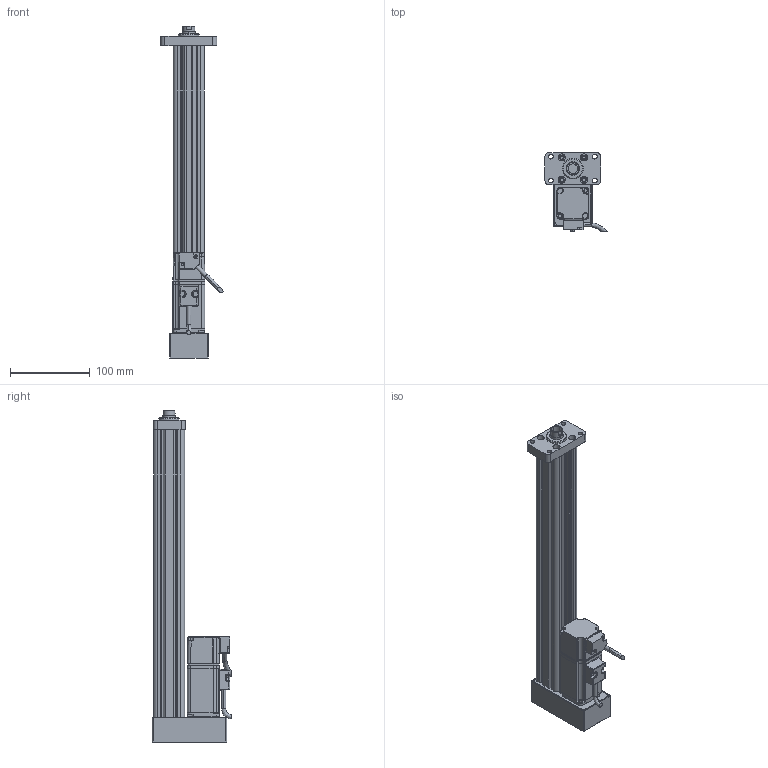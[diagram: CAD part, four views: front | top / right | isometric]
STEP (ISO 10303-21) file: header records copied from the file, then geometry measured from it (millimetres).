
FILE_DESCRIPTION (( 'STEP AP214' ), '1' );
FILE_NAME ('039-S300-D02-B-M3-C2-2.STEP', '2021-02-25T08:43:19', ( '' ), ( '' ), 'SwSTEP 2.0', 'SolidWorks 2018', '' );
FILE_SCHEMA (( 'AUTOMOTIVE_DESIGN' ));
Length unit declared in the file: millimetre
Products named in the file (7): 039-S300-D02-B-M3-C2-2; CMC039-GT; CMC039-FL; ECMA-CX0401ES-40框號系列機種-100W低慣量系列; CMC039-LJB; CMC039-DT; CMC039-XT
Assembly tree (6 placements, depth 2):
  039-S300-D02-B-M3-C2-2
    CMC039-GT
    CMC039-LJB
    CMC039-XT
    CMC039-FL
    CMC039-DT
    ECMA-CX0401ES-40框號系列機種-100W低慣量系列
Bounding box: 77.84 x 99.39 x 416 mm (x, y, z)
Volume: 543158 mm3; surface area: 199614.7 mm2
Topology: 6 solids, 14 shells, 612 faces, 1592 edges, 989 vertices
Faces by surface type: cylinder 250, plane 239, bspline 84, cone 39
Entity records: 24722 total; most frequent: CARTESIAN_POINT 10684, ORIENTED_EDGE 3118, DIRECTION 2445, EDGE_CURVE 1559, VERTEX_POINT 989, AXIS2_PLACEMENT_3D 837, LINE 771, VECTOR 771
